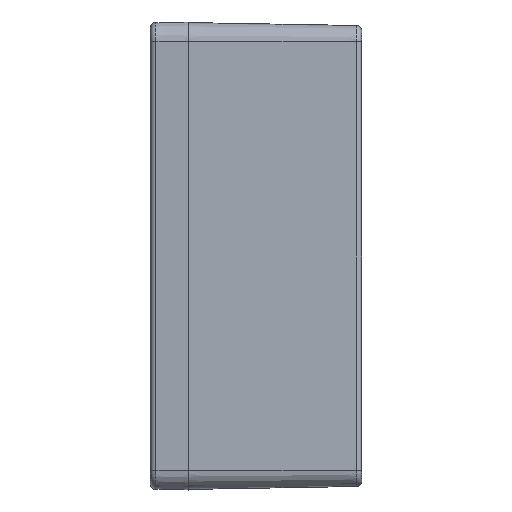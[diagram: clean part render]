
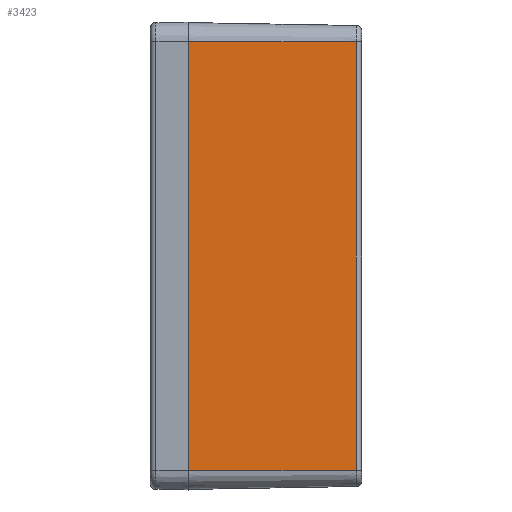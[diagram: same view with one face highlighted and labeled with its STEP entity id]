
A CAD part, left-side view. The second image highlights one B-rep face of the part: STEP entity #3423.
In plain terms, the highlighted planar face has unit normal (-1, -0.018, 0).
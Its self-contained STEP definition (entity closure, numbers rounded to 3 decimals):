
#33 = CARTESIAN_POINT ( 'NONE',  ( -85.5, 0., -55.35 ) ) ;
#437 = VECTOR ( 'NONE', #10597, 1000. ) ;
#814 = VECTOR ( 'NONE', #10134, 1000. ) ;
#1026 = CARTESIAN_POINT ( 'NONE',  ( -85.5, 0., 55.35 ) ) ;
#1102 = VERTEX_POINT ( 'NONE', #33 ) ;
#1346 = DIRECTION ( 'NONE',  ( -1., -0.017, 0. ) ) ;
#1845 = LINE ( 'NONE', #1026, #8771 ) ;
#1955 = VERTEX_POINT ( 'NONE', #8680 ) ;
#1992 = LINE ( 'NONE', #8485, #4642 ) ;
#2506 = CARTESIAN_POINT ( 'NONE',  ( -84.745, -43.226, -55.35 ) ) ;
#2521 = VERTEX_POINT ( 'NONE', #2506 ) ;
#2657 = EDGE_CURVE ( 'NONE', #9065, #1955, #1992, .T. ) ;
#3119 = AXIS2_PLACEMENT_3D ( 'NONE', #8540, #1346, #8915 ) ;
#3423 = ADVANCED_FACE ( 'NONE', ( #7945 ), #3806, .T. ) ;
#3428 = DIRECTION ( 'NONE',  ( 0., 0., 1. ) ) ;
#3806 = PLANE ( 'NONE',  #3119 ) ;
#4642 = VECTOR ( 'NONE', #10082, 1000. ) ;
#4750 = CARTESIAN_POINT ( 'NONE',  ( -85.5, 0., -55.35 ) ) ;
#5050 = LINE ( 'NONE', #8318, #814 ) ;
#5565 = CARTESIAN_POINT ( 'NONE',  ( -84.745, -43.226, 55.35 ) ) ;
#6066 = ORIENTED_EDGE ( 'NONE', *, *, #9751, .T. ) ;
#7234 = EDGE_CURVE ( 'NONE', #1102, #1955, #1845, .T. ) ;
#7377 = ORIENTED_EDGE ( 'NONE', *, *, #7830, .F. ) ;
#7830 = EDGE_CURVE ( 'NONE', #2521, #1102, #10436, .T. ) ;
#7945 = FACE_OUTER_BOUND ( 'NONE', #9976, .T. ) ;
#8229 = ORIENTED_EDGE ( 'NONE', *, *, #2657, .T. ) ;
#8318 = CARTESIAN_POINT ( 'NONE',  ( -84.745, -43.226, 55.35 ) ) ;
#8485 = CARTESIAN_POINT ( 'NONE',  ( -85.5, 0., 55.35 ) ) ;
#8540 = CARTESIAN_POINT ( 'NONE',  ( -85.5, 0., 55.35 ) ) ;
#8680 = CARTESIAN_POINT ( 'NONE',  ( -85.5, 0., 55.35 ) ) ;
#8771 = VECTOR ( 'NONE', #3428, 1000. ) ;
#8915 = DIRECTION ( 'NONE',  ( 0.017, -1., 0. ) ) ;
#9065 = VERTEX_POINT ( 'NONE', #5565 ) ;
#9521 = ORIENTED_EDGE ( 'NONE', *, *, #7234, .F. ) ;
#9751 = EDGE_CURVE ( 'NONE', #2521, #9065, #5050, .T. ) ;
#9976 = EDGE_LOOP ( 'NONE', ( #7377, #6066, #8229, #9521 ) ) ;
#10082 = DIRECTION ( 'NONE',  ( -0.017, 1., 0. ) ) ;
#10134 = DIRECTION ( 'NONE',  ( 0., 0., 1. ) ) ;
#10436 = LINE ( 'NONE', #4750, #437 ) ;
#10597 = DIRECTION ( 'NONE',  ( -0.017, 1., 0. ) ) ;
